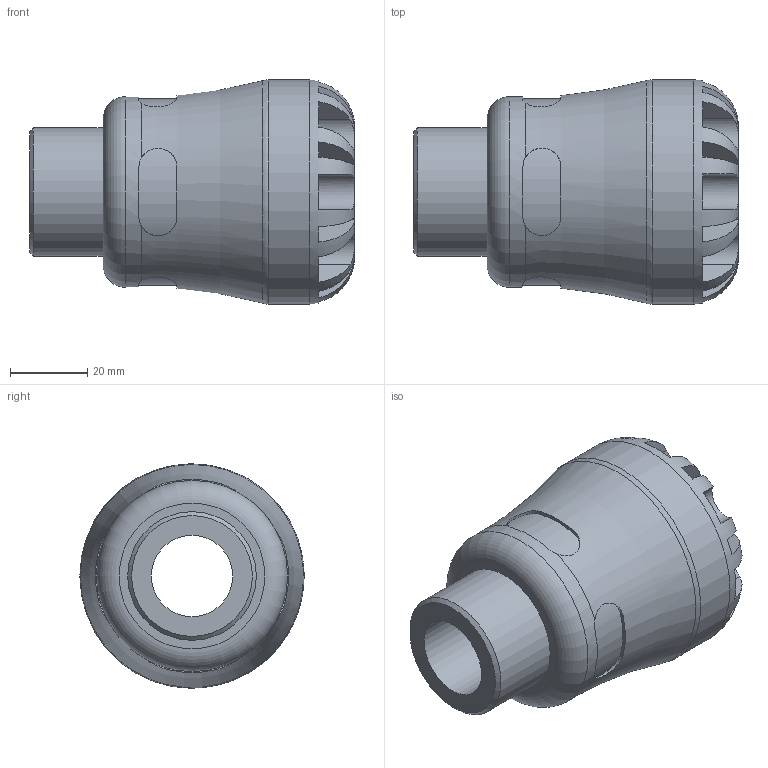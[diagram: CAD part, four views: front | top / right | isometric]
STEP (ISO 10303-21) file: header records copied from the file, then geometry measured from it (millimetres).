
FILE_DESCRIPTION(/* description */ ('PLASSON MALE COPPER ADAPTOR 28X1" SERIES 1'),/* implementation_level */ '2;1');
FILE_NAME(/* name */ 'C:\Dropbox\KIMPROJECTS-Inventor\99-16-3568-Processing\1002\X2\0421\X0\\1002C7028010.ipt.step',/* time_stamp */ '2017-05-15T11:05:33+03:00',/* author */ ('KIM'),/* organization */ (''),/* preprocessor_version */ 'ST-DEVELOPER v15.6',/* originating_system */ 'Autodesk Inventor 2015',/* authorisation */ '');
FILE_SCHEMA (('AUTOMOTIVE_DESIGN { 1 0 10303 214 3 1 1 }'));
Length unit declared in the file: millimetre
Products named in the file (1): 1002C7028010
Bounding box: 84 x 58 x 58 mm (x, y, z)
Volume: 107995 mm3; surface area: 24827.3 mm2
Topology: 1 solids, 1 shells, 99 faces, 255 edges, 160 vertices
Faces by surface type: plane 60, cylinder 33, torus 4, cone 2
Full cylindrical faces by diameter (mm): 21 x1, 28 x1, 33.249 x1, 49.3 x1, 58 x1
Entity records: 3851 total; most frequent: CARTESIAN_POINT 1450, ORIENTED_EDGE 482, DIRECTION 458, EDGE_CURVE 241, AXIS2_PLACEMENT_3D 189, VERTEX_POINT 157, EDGE_LOOP 114, STYLED_ITEM 100
